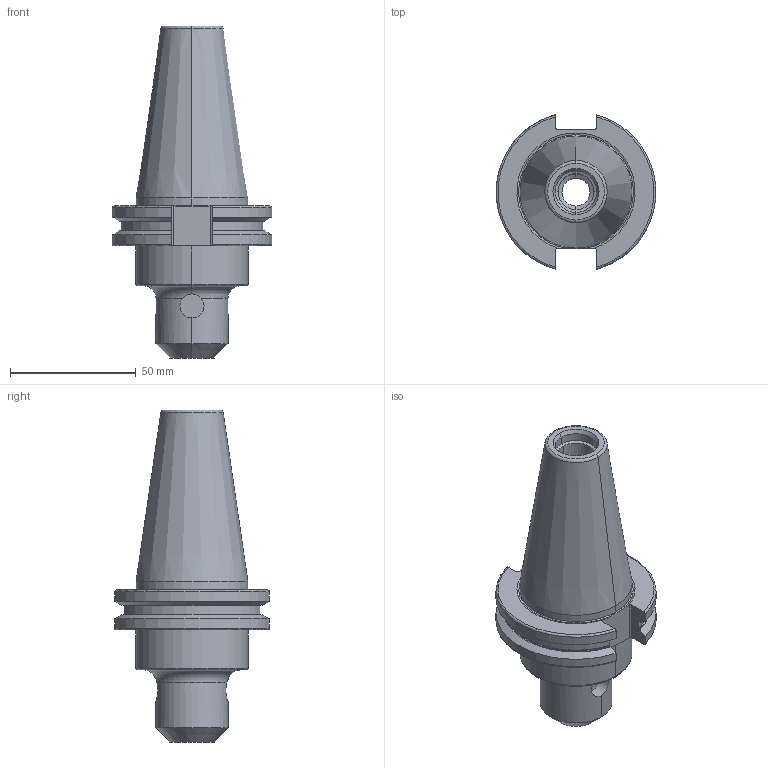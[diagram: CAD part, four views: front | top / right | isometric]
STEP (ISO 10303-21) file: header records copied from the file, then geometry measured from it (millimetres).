
FILE_DESCRIPTION (( 'STEP AP214' ), '1' );
FILE_NAME ('RC4EM0437250.STEP', '2019-02-08T14:08:46', ( '' ), ( '' ), 'SwSTEP 2.0', 'SolidWorks 2019', '' );
FILE_SCHEMA (( 'AUTOMOTIVE_DESIGN' ));
Length unit declared in the file: inch
Products named in the file (1): RC4EM0437250
Bounding box: 63.26 x 61.35 x 131.75 mm (x, y, z)
Volume: 135795.7 mm3; surface area: 26583.2 mm2
Topology: 1 solids, 1 shells, 117 faces, 301 edges, 186 vertices
Faces by surface type: cylinder 36, plane 36, cone 29, torus 16
Entity records: 3984 total; most frequent: CARTESIAN_POINT 1085, ORIENTED_EDGE 594, DIRECTION 592, EDGE_CURVE 297, AXIS2_PLACEMENT_3D 235, VERTEX_POINT 186, EDGE_LOOP 123, VECTOR 122
